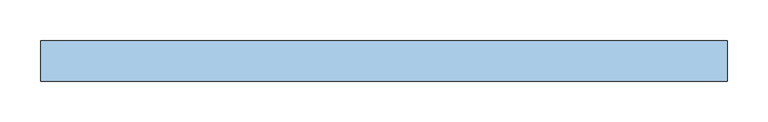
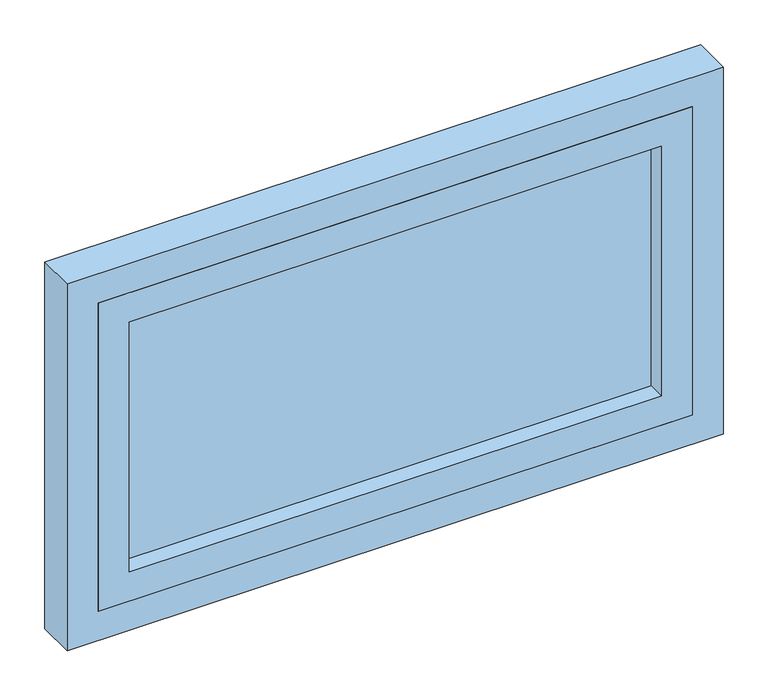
"""IFC4 building model written with IfcOpenShell, lengths in millimetres: window geometry, VENT_ALUM_PROY : VD-6 / PROY BAÑO 0.79 X 0.5."""

from ifc_helpers import new_model, si_unit, frame, origin, place, context, project, spatial, polyline, outline, extrude, source, transform, mapped, element, save


def window_0b087fe4(model_context):
    return source(origin(), model_context, "Body", "SweptSolid", [
        extrude(outline(polyline([(1260.0, -382.5), (840.0, -382.5), (840.0, 382.5), (1260.0, 382.5), (1260.0, -382.5)]), holes=[polyline([(880.0, -342.5), (1220.0, -342.5), (1220.0, 342.5), (880.0, 342.5), (880.0, -342.5)])]), frame((0.0, -25.0, 0.0), z_axis=(0.0, 1.0, 0.0), x_axis=(0.0, 0.0, 1.0)), (0.0, 0.0, 1.0), 50.0),
        extrude(outline(polyline([(342.5, 3.0), (342.5, -3.0), (-342.5, -3.0), (-342.5, 3.0), (342.5, 3.0)])), frame((0.0, 0.0, 880.0), z_axis=(0.0, 0.0, 1.0), x_axis=(1.0, 0.0, 0.0)), (0.0, 0.0, 1.0), 340.0),
        extrude(outline(polyline([(1300.0, -422.5), (800.0, -422.5), (800.0, 422.5), (1300.0, 422.5), (1300.0, -422.5)]), holes=[polyline([(840.0, -382.5), (1260.0, -382.5), (1260.0, 382.5), (840.0, 382.5), (840.0, -382.5)])]), frame((0.0, -25.0, 0.0), z_axis=(0.0, 1.0, 0.0), x_axis=(0.0, 0.0, 1.0)), (0.0, 0.0, 1.0), 50.0),
    ])


if __name__ == "__main__":
    model = new_model("IFC4")
    model_context = context("Model", 3, world=origin())
    ifc_project = project(units=[si_unit("LENGTHUNIT", "METRE", prefix="MILLI")], contexts=[model_context])
    site = spatial("IfcSite", under=ifc_project)
    building = spatial("IfcBuilding", under=site)
    placement = place(None, origin())
    window_shape = window_0b087fe4(model_context)
    element("IfcWindow", 1, ObjectType="VENT_ALUM_PROY : VD-6 / PROY BAÑO 0.79 X 0.5", at=placement, inside=building, context=model_context, shape_type="MappedRepresentation", body=[
        mapped(window_shape, transform((0.0, 0.0, 0.0), x_axis=(1.0, 0.0, 0.0), y_axis=(0.0, 1.0, 0.0), z_axis=(0.0, 0.0, 1.0))),
    ])
    save(model, "model.ifc")
